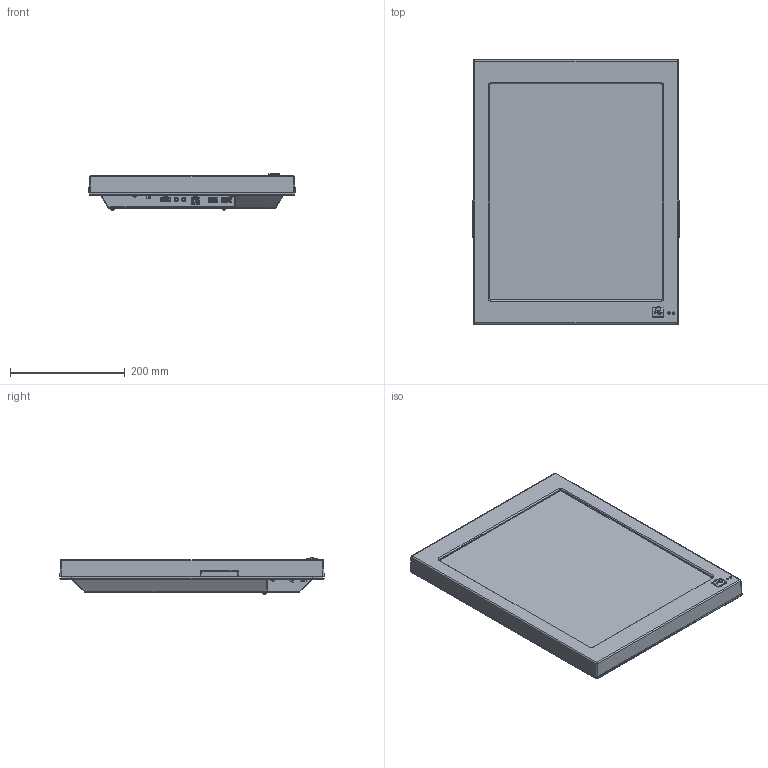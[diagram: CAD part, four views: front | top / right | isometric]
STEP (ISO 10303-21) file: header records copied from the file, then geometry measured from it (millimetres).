
FILE_DESCRIPTION (( 'STEP AP214' ), '1' );
FILE_NAME ('TAE1931 12-200-1931.STEP', '2017-04-10T09:02:36', ( 'SIGMATEK GmbH & Co KG' ), ( 'SIGMATEK GmbH & Co KG' ), 'SwSTEP 2.0', 'SolidWorks 2017', '' );
FILE_SCHEMA (( 'AUTOMOTIVE_DESIGN' ));
Length unit declared in the file: millimetre
Products named in the file (34): 1010141013 LED gr黱 3mm LTL1CHG-012A; Moosgummistreifen 318 x 4 (Höhe 0,60mm) einseitig klebend; 96900-KPL-03 (USB-Frontplatine); Moosgummistreifen 400 x 4 (Höhe 0,60mm) einseitig klebend; Kupferband; Rundschnur 2mm l = 640mm ; ETV1961 Gehäuse kpl; Rundschnur 2mm l = 831mm ; ss19z geschlossenes Gehäuse; Abdeckung Chipkartendurchbruch 9_4_2; Steckerbelegungsetikett TAE1931; 7227775028 19 Zoll Touch AST-190A140A mit AirVent_ohne Touchabgang; Montageplatte TAE1931; Flachkopfschraube ISO 7045 (DIN 7985) M3 x 6 - Z7 - 4.8 - H - A2F; fh_m3_12; PT-Senkschraube UN13576 KA40 x 10  St-verzinkt; USB-Abdeckung 3030201647-2 (RAL7024 grafitgrau)_mit Stiftdichtung; Steckerblech TAE1931; PT-Schraube UN13578 KA40 x 12  St-verzinkt; s_m3_0; Sechskantmutter EN ISO 10511 (DIN 985) - M3 - 04 St-verzinkt; 106302_30.04.13 inkl. USB Print; 19z Frontrahmen 1_0; 106302_13.04.24; 4080225240 FCI USB Typ-A 87583-2010rlf; TAE1931 12-200-1931; 4080225351_MOLEX_47272_2X10_90; 4080225165 USB-Buchse Typ B 90°, FCI 61729-1011 RLF; 96900-KPL-03 (USB-Frontplatine) TT1933; 4080225277 Klinkeneinbaukupplung 150303R; USB Buchse Typ A 180 gerade 1_00; 1010141014 LED rot 3mm LTL1CHE-012A; 4110251205 4pol.Minicombicon-Grundgehäuse RM3,5 1937512
Assembly tree (50 placements, depth 4):
  TAE1931 12-200-1931
    19z Frontrahmen 1_0
    Sechskantmutter EN ISO 10511 (DIN 985) - M3 - 04 St-verzinkt  x2
    PT-Schraube UN13578 KA40 x 12  St-verzinkt
    PT-Senkschraube UN13576 KA40 x 10  St-verzinkt  x10
    Flachkopfschraube ISO 7045 (DIN 7985) M3 x 6 - Z7 - 4.8 - H - A2F  x2
    7227775028 19 Zoll Touch AST-190A140A mit AirVent_ohne Touchabgang
    Abdeckung Chipkartendurchbruch 9_4_2  x2
    Rundschnur 2mm l = 831mm 
    Rundschnur 2mm l = 640mm 
    Moosgummistreifen 400 x 4 (Höhe 0,60mm) einseitig klebend  x2
    Moosgummistreifen 318 x 4 (Höhe 0,60mm) einseitig klebend  x2
    106302_30.04.13 inkl. USB Print
      106302_13.04.24
        4110251205 4pol.Minicombicon-Grundgehäuse RM3,5 1937512
        4080225277 Klinkeneinbaukupplung 150303R  x2
        4080225165 USB-Buchse Typ B 90°, FCI 61729-1011 RLF
        4080225351_MOLEX_47272_2X10_90
        4080225240 FCI USB Typ-A 87583-2010rlf
    Steckerblech TAE1931
      Steckerblech TAE1931
      s_m3_0  x2
    USB-Abdeckung 3030201647-2 (RAL7024 grafitgrau)_mit Stiftdichtung
    Montageplatte TAE1931
      fh_m3_12  x2
    Steckerbelegungsetikett TAE1931
    ETV1961 Gehäuse kpl
      ss19z geschlossenes Gehäuse
    Kupferband
    96900-KPL-03 (USB-Frontplatine) TT1933
      96900-KPL-03 (USB-Frontplatine)
      1010141013 LED gr黱 3mm LTL1CHG-012A
      1010141014 LED rot 3mm LTL1CHE-012A
      USB Buchse Typ A 180 gerade 1_00
Bounding box: 359.89 x 461.61 x 63.08 mm (x, y, z)
Volume: 899191.3 mm3; surface area: 950675.6 mm2
Topology: 43 solids, 47 shells, 6512 faces, 16583 edges, 10312 vertices
Faces by surface type: plane 4258, cylinder 1386, cone 515, bspline 254, torus 67, sphere 32
Full cylindrical faces by diameter (mm): 0.2 x1
Entity records: 185325 total; most frequent: CARTESIAN_POINT 40838, ORIENTED_EDGE 29580, DIRECTION 27500, EDGE_CURVE 14803, VECTOR 10674, LINE 10674, VERTEX_POINT 9260, AXIS2_PLACEMENT_3D 8413
